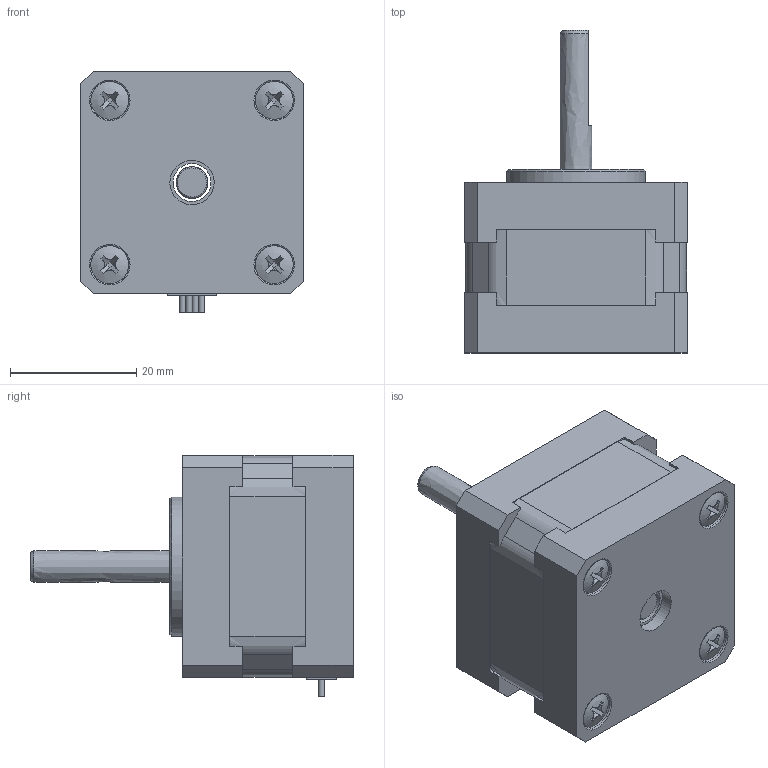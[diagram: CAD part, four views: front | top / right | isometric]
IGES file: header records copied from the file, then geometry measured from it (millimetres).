
Global section: file name: NEMA_14HM11-0404S; native system: Autodesk Inventor 2019; preprocessor: unknown; author: thoma; date: 20191125.220433; units: millimetre
Bounding box: 35.2 x 51.07 x 38.2 mm (x, y, z)
Volume: 33095.8 mm3; surface area: 9232.9 mm2
Topology: 6 solids, 6 shells, 241 faces, 659 edges, 446 vertices
Faces by surface type: bspline 241
